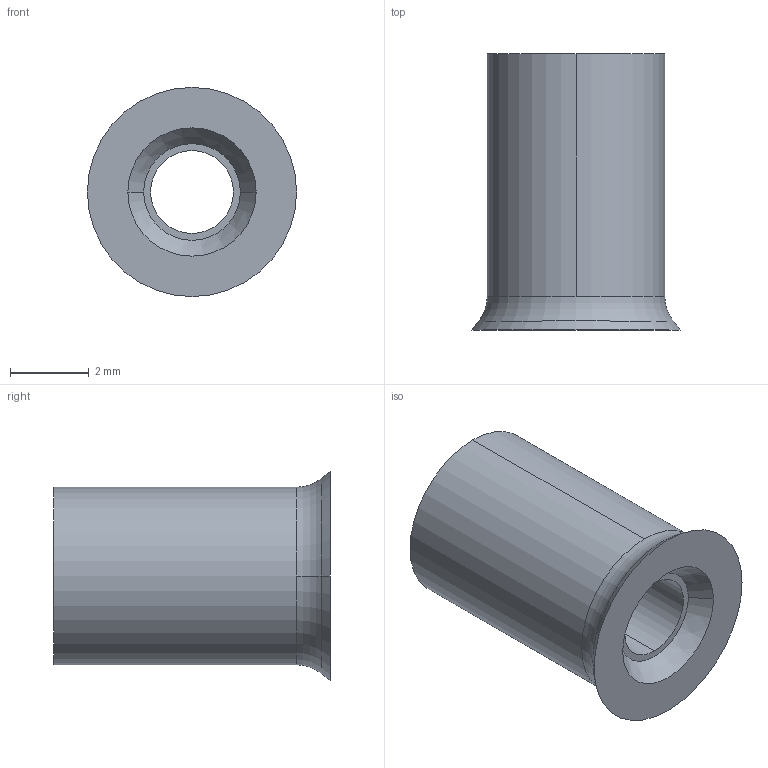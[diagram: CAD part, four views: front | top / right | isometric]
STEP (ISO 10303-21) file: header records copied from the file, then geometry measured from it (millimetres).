
FILE_DESCRIPTION (( 'STEP AP214' ), '1' );
FILE_NAME ('673.STEP', '2011-06-21T20:32:19', ( 'EMI' ), ( 'EMI' ), 'SwSTEP 2.0', 'SolidWorks 2009', '' );
FILE_SCHEMA (( 'AUTOMOTIVE_DESIGN' ));
Length unit declared in the file: millimetre
Products named in the file (1): 673
Bounding box: 5.3 x 7 x 5.3 mm (x, y, z)
Volume: 87.3 mm3; surface area: 177.5 mm2
Topology: 1 solids, 1 shells, 13 faces, 28 edges, 18 vertices
Faces by surface type: cone 4, cylinder 4, plane 3, torus 2
Entity records: 404 total; most frequent: DIRECTION 76, CARTESIAN_POINT 60, ORIENTED_EDGE 56, AXIS2_PLACEMENT_3D 34, EDGE_CURVE 28, CIRCLE 20, VERTEX_POINT 18, EDGE_LOOP 16
